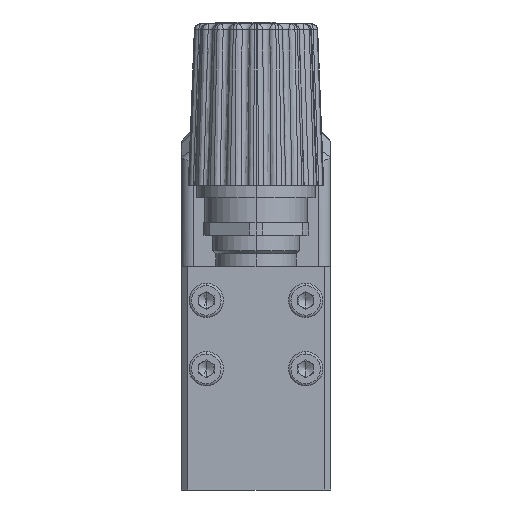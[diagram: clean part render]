
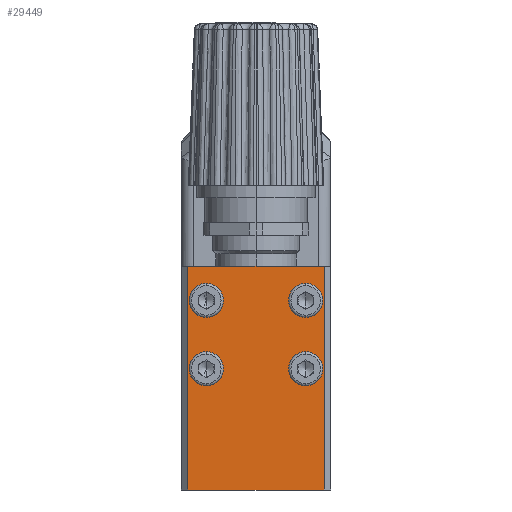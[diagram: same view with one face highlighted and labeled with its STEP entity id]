
A CAD part, left-side view. The second image highlights one B-rep face of the part: STEP entity #29449.
In plain terms, the highlighted planar face has unit normal (-1, 0, 0).
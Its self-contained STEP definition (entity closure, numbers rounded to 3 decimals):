
#242 = AXIS2_PLACEMENT_3D ( 'NONE', #12548, #43688, #53472 ) ;
#545 = EDGE_CURVE ( 'NONE', #9331, #12631, #23308, .T. ) ;
#591 = DIRECTION ( 'NONE',  ( -1., 0., 0. ) ) ;
#1148 = ORIENTED_EDGE ( 'NONE', *, *, #43433, .F. ) ;
#1246 = DIRECTION ( 'NONE',  ( 0., -1., 0. ) ) ;
#1679 = CARTESIAN_POINT ( 'NONE',  ( -67.002, -11., -55.5 ) ) ;
#3239 = CARTESIAN_POINT ( 'NONE',  ( -67.002, 10.6, -25. ) ) ;
#3394 = PLANE ( 'NONE',  #10844 ) ;
#3660 = VECTOR ( 'NONE', #14739, 1000. ) ;
#3751 = DIRECTION ( 'NONE',  ( -1., 0., 0. ) ) ;
#4303 = CARTESIAN_POINT ( 'NONE',  ( -67.002, -8., -8.25 ) ) ;
#4994 = CARTESIAN_POINT ( 'NONE',  ( -67.002, -11., -25. ) ) ;
#6087 = ORIENTED_EDGE ( 'NONE', *, *, #18493, .T. ) ;
#6337 = DIRECTION ( 'NONE',  ( -1., 0., 0. ) ) ;
#6472 = ORIENTED_EDGE ( 'NONE', *, *, #38226, .F. ) ;
#6583 = DIRECTION ( 'NONE',  ( 0., 0., 1. ) ) ;
#8482 = CARTESIAN_POINT ( 'NONE',  ( -67.002, 8., 2.75 ) ) ;
#8899 = EDGE_CURVE ( 'NONE', #36608, #52011, #15317, .T. ) ;
#9008 = CARTESIAN_POINT ( 'NONE',  ( -67.002, 12., -55.5 ) ) ;
#9174 = DIRECTION ( 'NONE',  ( 0., 0., 1. ) ) ;
#9331 = VERTEX_POINT ( 'NONE', #16076 ) ;
#9912 = EDGE_LOOP ( 'NONE', ( #38640, #14466 ) ) ;
#10806 = CARTESIAN_POINT ( 'NONE',  ( -67.002, 8., -2.75 ) ) ;
#10844 = AXIS2_PLACEMENT_3D ( 'NONE', #9008, #44293, #1246 ) ;
#11521 = ORIENTED_EDGE ( 'NONE', *, *, #24197, .F. ) ;
#12430 = EDGE_CURVE ( 'NONE', #14355, #46919, #38975, .T. ) ;
#12548 = CARTESIAN_POINT ( 'NONE',  ( -67.002, -8., 5.5 ) ) ;
#12631 = VERTEX_POINT ( 'NONE', #33761 ) ;
#13151 = CARTESIAN_POINT ( 'NONE',  ( -67.002, 8., -8.25 ) ) ;
#13359 = DIRECTION ( 'NONE',  ( 0., 0., 1. ) ) ;
#14292 = DIRECTION ( 'NONE',  ( -1., 0., 0. ) ) ;
#14299 = EDGE_CURVE ( 'NONE', #58325, #36608, #40276, .T. ) ;
#14355 = VERTEX_POINT ( 'NONE', #58349 ) ;
#14466 = ORIENTED_EDGE ( 'NONE', *, *, #43929, .F. ) ;
#14739 = DIRECTION ( 'NONE',  ( 0., -1., 0. ) ) ;
#14880 = DIRECTION ( 'NONE',  ( 0., 0., 1. ) ) ;
#15242 = EDGE_LOOP ( 'NONE', ( #20086, #26358 ) ) ;
#15317 = LINE ( 'NONE', #1679, #53593 ) ;
#15324 = CARTESIAN_POINT ( 'NONE',  ( -67.002, -11., 11. ) ) ;
#15544 = CIRCLE ( 'NONE', #25003, 2.75 ) ;
#15627 = DIRECTION ( 'NONE',  ( 0., 0., 1. ) ) ;
#15680 = ORIENTED_EDGE ( 'NONE', *, *, #14299, .T. ) ;
#15686 = VERTEX_POINT ( 'NONE', #34609 ) ;
#16076 = CARTESIAN_POINT ( 'NONE',  ( -67.002, -8., 8.25 ) ) ;
#16817 = CARTESIAN_POINT ( 'NONE',  ( -67.002, 8., 5.5 ) ) ;
#18121 = VERTEX_POINT ( 'NONE', #21718 ) ;
#18493 = EDGE_CURVE ( 'NONE', #15686, #58325, #49434, .T. ) ;
#19379 = VERTEX_POINT ( 'NONE', #13151 ) ;
#19893 = CARTESIAN_POINT ( 'NONE',  ( -67.002, -8., -5.5 ) ) ;
#20086 = ORIENTED_EDGE ( 'NONE', *, *, #12430, .F. ) ;
#21087 = CIRCLE ( 'NONE', #242, 2.75 ) ;
#21467 = FACE_BOUND ( 'NONE', #15242, .T. ) ;
#21658 = CIRCLE ( 'NONE', #23553, 2.75 ) ;
#21718 = CARTESIAN_POINT ( 'NONE',  ( -67.002, 8., 8.25 ) ) ;
#23308 = CIRCLE ( 'NONE', #32849, 2.75 ) ;
#23553 = AXIS2_PLACEMENT_3D ( 'NONE', #29112, #33275, #6583 ) ;
#23802 = DIRECTION ( 'NONE',  ( 0., 0., 1. ) ) ;
#24197 = EDGE_CURVE ( 'NONE', #12631, #9331, #21087, .T. ) ;
#24873 = CARTESIAN_POINT ( 'NONE',  ( -67.002, 11., -25. ) ) ;
#25003 = AXIS2_PLACEMENT_3D ( 'NONE', #28546, #6337, #23802 ) ;
#25576 = VERTEX_POINT ( 'NONE', #10806 ) ;
#25787 = ORIENTED_EDGE ( 'NONE', *, *, #50759, .F. ) ;
#25996 = EDGE_LOOP ( 'NONE', ( #52945, #11521 ) ) ;
#26358 = ORIENTED_EDGE ( 'NONE', *, *, #57038, .F. ) ;
#26607 = DIRECTION ( 'NONE',  ( 0., -1., 0. ) ) ;
#27439 = DIRECTION ( 'NONE',  ( -1., 0., 0. ) ) ;
#28546 = CARTESIAN_POINT ( 'NONE',  ( -67.002, 8., 5.5 ) ) ;
#29112 = CARTESIAN_POINT ( 'NONE',  ( -67.002, 8., -5.5 ) ) ;
#29449 = ADVANCED_FACE ( 'NONE', ( #31519, #21467, #48441, #49610, #44001 ), #3394, .T. ) ;
#29785 = AXIS2_PLACEMENT_3D ( 'NONE', #19893, #14292, #14880 ) ;
#31519 = FACE_BOUND ( 'NONE', #25996, .T. ) ;
#31537 = CIRCLE ( 'NONE', #44834, 2.75 ) ;
#32849 = AXIS2_PLACEMENT_3D ( 'NONE', #41211, #591, #13359 ) ;
#32887 = VECTOR ( 'NONE', #39667, 1000. ) ;
#33275 = DIRECTION ( 'NONE',  ( -1., 0., 0. ) ) ;
#33761 = CARTESIAN_POINT ( 'NONE',  ( -67.002, -8., 2.75 ) ) ;
#34609 = CARTESIAN_POINT ( 'NONE',  ( -67.002, 11., 11. ) ) ;
#36474 = EDGE_LOOP ( 'NONE', ( #25787, #6087, #15680, #43260 ) ) ;
#36608 = VERTEX_POINT ( 'NONE', #4994 ) ;
#36690 = CARTESIAN_POINT ( 'NONE',  ( -67.002, 0., 11. ) ) ;
#36859 = CIRCLE ( 'NONE', #44425, 2.75 ) ;
#37226 = DIRECTION ( 'NONE',  ( 0., 0., 1. ) ) ;
#38226 = EDGE_CURVE ( 'NONE', #19379, #25576, #36859, .T. ) ;
#38640 = ORIENTED_EDGE ( 'NONE', *, *, #56525, .F. ) ;
#38975 = CIRCLE ( 'NONE', #53152, 2.75 ) ;
#39667 = DIRECTION ( 'NONE',  ( 0., 0., -1. ) ) ;
#40276 = LINE ( 'NONE', #3239, #47571 ) ;
#41211 = CARTESIAN_POINT ( 'NONE',  ( -67.002, -8., 5.5 ) ) ;
#41473 = CARTESIAN_POINT ( 'NONE',  ( -67.002, -8., -5.5 ) ) ;
#42431 = EDGE_LOOP ( 'NONE', ( #1148, #6472 ) ) ;
#43260 = ORIENTED_EDGE ( 'NONE', *, *, #8899, .T. ) ;
#43433 = EDGE_CURVE ( 'NONE', #25576, #19379, #21658, .T. ) ;
#43688 = DIRECTION ( 'NONE',  ( -1., 0., 0. ) ) ;
#43929 = EDGE_CURVE ( 'NONE', #43950, #18121, #31537, .T. ) ;
#43950 = VERTEX_POINT ( 'NONE', #8482 ) ;
#44001 = FACE_OUTER_BOUND ( 'NONE', #36474, .T. ) ;
#44293 = DIRECTION ( 'NONE',  ( -1., 0., 0. ) ) ;
#44425 = AXIS2_PLACEMENT_3D ( 'NONE', #45545, #27439, #37226 ) ;
#44834 = AXIS2_PLACEMENT_3D ( 'NONE', #16817, #3751, #48233 ) ;
#45545 = CARTESIAN_POINT ( 'NONE',  ( -67.002, 8., -5.5 ) ) ;
#45916 = DIRECTION ( 'NONE',  ( -1., 0., 0. ) ) ;
#46919 = VERTEX_POINT ( 'NONE', #4303 ) ;
#47571 = VECTOR ( 'NONE', #26607, 1000. ) ;
#48233 = DIRECTION ( 'NONE',  ( 0., 0., 1. ) ) ;
#48441 = FACE_BOUND ( 'NONE', #9912, .T. ) ;
#49434 = LINE ( 'NONE', #53614, #32887 ) ;
#49610 = FACE_BOUND ( 'NONE', #42431, .T. ) ;
#49682 = CIRCLE ( 'NONE', #29785, 2.75 ) ;
#50759 = EDGE_CURVE ( 'NONE', #15686, #52011, #55057, .T. ) ;
#52011 = VERTEX_POINT ( 'NONE', #15324 ) ;
#52945 = ORIENTED_EDGE ( 'NONE', *, *, #545, .F. ) ;
#53152 = AXIS2_PLACEMENT_3D ( 'NONE', #41473, #45916, #9174 ) ;
#53472 = DIRECTION ( 'NONE',  ( 0., 0., 1. ) ) ;
#53593 = VECTOR ( 'NONE', #15627, 1000. ) ;
#53614 = CARTESIAN_POINT ( 'NONE',  ( -67.002, 11., -55.5 ) ) ;
#55057 = LINE ( 'NONE', #36690, #3660 ) ;
#56525 = EDGE_CURVE ( 'NONE', #18121, #43950, #15544, .T. ) ;
#57038 = EDGE_CURVE ( 'NONE', #46919, #14355, #49682, .T. ) ;
#58325 = VERTEX_POINT ( 'NONE', #24873 ) ;
#58349 = CARTESIAN_POINT ( 'NONE',  ( -67.002, -8., -2.75 ) ) ;
